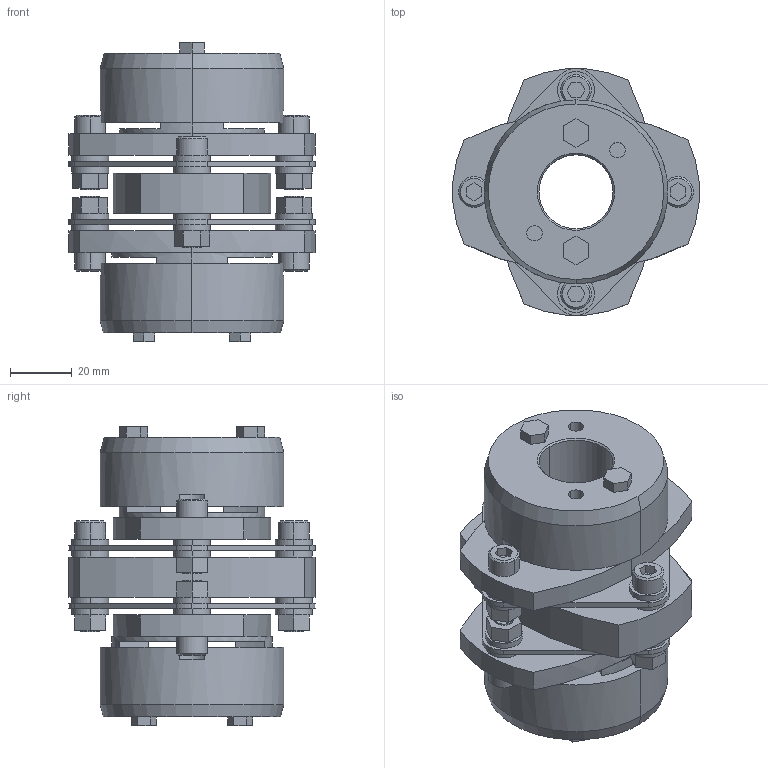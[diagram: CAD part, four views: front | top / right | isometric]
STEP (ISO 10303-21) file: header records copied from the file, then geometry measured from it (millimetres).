
FILE_DESCRIPTION((''),'2;1');
FILE_NAME('LCD-80T7-24×32.stp','2011-09-15T15:49:18',(''),(''),'AutoCAD STEP 2000i','AutoCAD 2000i',', , ');
FILE_SCHEMA(('CONFIG_CONTROL_DESIGN'));
Length unit declared in the file: millimetre
Products named in the file (13): LCD-80T7-24×32; 忣兜1; LC80T7-T032; LC80T7-T030; LC80T7-T028; LC80T7-T024-1; LC80T7-T024; LC80T7-T022; LC80T7-T019-1; LC80T7-T019; LC80T7-T017-1; LC80T7-T017; LCD80-ITA
Assembly tree (12 placements, depth 2):
  LCD-80T7-24×32
    忣兜1
    LC80T7-T032
    LC80T7-T030
    LC80T7-T028
    LC80T7-T024-1
    LC80T7-T024
    LC80T7-T022
    LC80T7-T019-1
    LC80T7-T019
    LC80T7-T017-1
    LC80T7-T017
    LCD80-ITA
Bounding box: 80 x 79.95 x 96.8 mm (x, y, z)
Volume: 190800.9 mm3; surface area: 59277.8 mm2
Topology: 1 solids, 1 shells, 331 faces, 812 edges, 532 vertices
Faces by surface type: plane 183, cylinder 124, cone 24
Entity records: 10121 total; most frequent: DIRECTION 1804, CARTESIAN_POINT 1688, ORIENTED_EDGE 1624, EDGE_CURVE 812, AXIS2_PLACEMENT_3D 648, VERTEX_POINT 532, VECTOR 508, LINE 508
